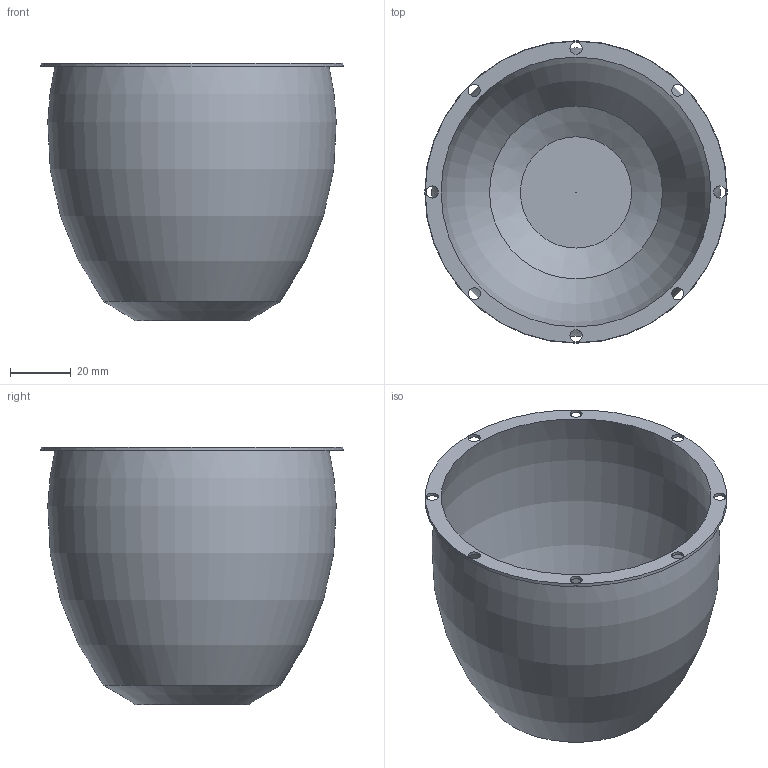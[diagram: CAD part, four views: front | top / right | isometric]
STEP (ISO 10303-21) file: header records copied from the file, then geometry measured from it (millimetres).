
FILE_DESCRIPTION(/* description */ ('STEP AP242 Edition 2','CAx-IF Rec.Pracs.---Representation and Presentation of Product Manufacturing Information (PMI)---4.0---2014-10-13','CAx-IF Rec.Pracs.---3D Tessellated Geometry---0.4---2014-09-14','2;1','CAx-IF Rec.Pracs.---User Defined Attributes---1.5---2016-08-15'),/* implementation_level */ '2;1');
FILE_NAME(/* name */ 'Assembly 1 - Part 3',/* time_stamp */ '2026-06-04T16:20:03Z',/* author */ (''),/* organization */ (''),/* preprocessor_version */ 'ST-DEVELOPER v20',/* originating_system */ 'ONSHAPE BY PTC INC, 1.215',/* authorisation */ ' ');
FILE_SCHEMA (('AP242_MANAGED_MODEL_BASED_3D_ENGINEERING_MIM_LF { 1 0 10303 442 3 1 4 }'));
Length unit declared in the file: metre
Products named in the file (1): Part 3
Bounding box: 99.85 x 99.85 x 85 mm (x, y, z)
Volume: 20375 mm3; surface area: 52671.2 mm2
Topology: 1 solids, 1 shells, 18 faces, 48 edges, 34 vertices
Faces by surface type: cylinder 9, plane 4, cone 3, torus 2
Full cylindrical faces by diameter (mm): 0.034 x1, 4 x8
Entity records: 502 total; most frequent: DIRECTION 90, CARTESIAN_POINT 71, ORIENTED_EDGE 52, EDGE_LOOP 52, FACE_BOUND 52, AXIS2_PLACEMENT_3D 45, EDGE_CURVE 26, VERTEX_POINT 26
